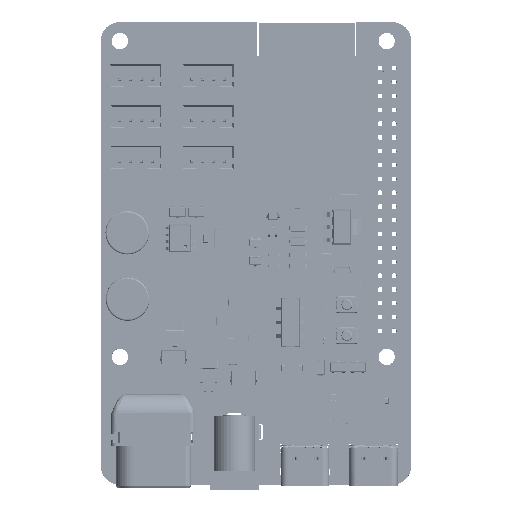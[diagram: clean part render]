
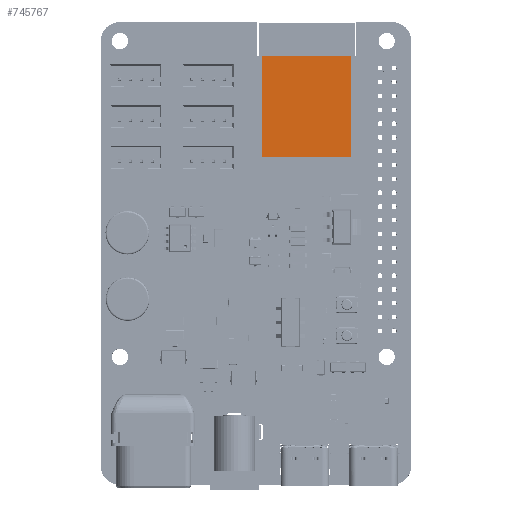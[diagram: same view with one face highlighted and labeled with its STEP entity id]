
A CAD part, top view. The second image highlights one B-rep face of the part: STEP entity #745767.
In plain terms, the highlighted planar face has unit normal (0, 0, 1).
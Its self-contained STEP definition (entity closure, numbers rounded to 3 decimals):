
#745453 = VERTEX_POINT('',#745454);
#745454 = CARTESIAN_POINT('',(8.15,-9.3,2.3));
#745461 = PLANE('',#745462);
#745462 = AXIS2_PLACEMENT_3D('',#745463,#745464,#745465);
#745463 = CARTESIAN_POINT('',(8.15,-9.3,0.));
#745464 = DIRECTION('',(0.,-1.,0.));
#745465 = DIRECTION('',(-1.,0.,0.));
#745473 = PLANE('',#745474);
#745474 = AXIS2_PLACEMENT_3D('',#745475,#745476,#745477);
#745475 = CARTESIAN_POINT('',(8.15,9.3,0.));
#745476 = DIRECTION('',(1.,0.,0.));
#745477 = DIRECTION('',(0.,-1.,0.));
#745485 = EDGE_CURVE('',#745453,#745486,#745488,.T.);
#745486 = VERTEX_POINT('',#745487);
#745487 = CARTESIAN_POINT('',(-8.15,-9.3,2.3));
#745488 = SURFACE_CURVE('',#745489,(#745493,#745500),.PCURVE_S1.);
#745489 = LINE('',#745490,#745491);
#745490 = CARTESIAN_POINT('',(8.15,-9.3,2.3));
#745491 = VECTOR('',#745492,1.);
#745492 = DIRECTION('',(-1.,0.,0.));
#745493 = PCURVE('',#745461,#745494);
#745494 = DEFINITIONAL_REPRESENTATION('',(#745495),#745499);
#745495 = LINE('',#745496,#745497);
#745496 = CARTESIAN_POINT('',(0.,-2.3));
#745497 = VECTOR('',#745498,1.);
#745498 = DIRECTION('',(1.,0.));
#745499 = ( GEOMETRIC_REPRESENTATION_CONTEXT(2) 
PARAMETRIC_REPRESENTATION_CONTEXT() REPRESENTATION_CONTEXT('2D SPACE',''
  ) );
#745500 = PCURVE('',#745501,#745506);
#745501 = PLANE('',#745502);
#745502 = AXIS2_PLACEMENT_3D('',#745503,#745504,#745505);
#745503 = CARTESIAN_POINT('',(8.15,-9.3,2.3));
#745504 = DIRECTION('',(0.,0.,1.));
#745505 = DIRECTION('',(1.,0.,0.));
#745506 = DEFINITIONAL_REPRESENTATION('',(#745507),#745511);
#745507 = LINE('',#745508,#745509);
#745508 = CARTESIAN_POINT('',(0.,0.));
#745509 = VECTOR('',#745510,1.);
#745510 = DIRECTION('',(-1.,0.));
#745511 = ( GEOMETRIC_REPRESENTATION_CONTEXT(2) 
PARAMETRIC_REPRESENTATION_CONTEXT() REPRESENTATION_CONTEXT('2D SPACE',''
  ) );
#745529 = PLANE('',#745530);
#745530 = AXIS2_PLACEMENT_3D('',#745531,#745532,#745533);
#745531 = CARTESIAN_POINT('',(-8.15,-9.3,0.));
#745532 = DIRECTION('',(-1.,0.,0.));
#745533 = DIRECTION('',(0.,1.,0.));
#745571 = EDGE_CURVE('',#745486,#745572,#745574,.T.);
#745572 = VERTEX_POINT('',#745573);
#745573 = CARTESIAN_POINT('',(-8.15,9.3,2.3));
#745574 = SURFACE_CURVE('',#745575,(#745579,#745586),.PCURVE_S1.);
#745575 = LINE('',#745576,#745577);
#745576 = CARTESIAN_POINT('',(-8.15,-9.3,2.3));
#745577 = VECTOR('',#745578,1.);
#745578 = DIRECTION('',(0.,1.,0.));
#745579 = PCURVE('',#745529,#745580);
#745580 = DEFINITIONAL_REPRESENTATION('',(#745581),#745585);
#745581 = LINE('',#745582,#745583);
#745582 = CARTESIAN_POINT('',(0.,-2.3));
#745583 = VECTOR('',#745584,1.);
#745584 = DIRECTION('',(1.,0.));
#745585 = ( GEOMETRIC_REPRESENTATION_CONTEXT(2) 
PARAMETRIC_REPRESENTATION_CONTEXT() REPRESENTATION_CONTEXT('2D SPACE',''
  ) );
#745586 = PCURVE('',#745501,#745587);
#745587 = DEFINITIONAL_REPRESENTATION('',(#745588),#745592);
#745588 = LINE('',#745589,#745590);
#745589 = CARTESIAN_POINT('',(-16.3,0.));
#745590 = VECTOR('',#745591,1.);
#745591 = DIRECTION('',(0.,1.));
#745592 = ( GEOMETRIC_REPRESENTATION_CONTEXT(2) 
PARAMETRIC_REPRESENTATION_CONTEXT() REPRESENTATION_CONTEXT('2D SPACE',''
  ) );
#745610 = PLANE('',#745611);
#745611 = AXIS2_PLACEMENT_3D('',#745612,#745613,#745614);
#745612 = CARTESIAN_POINT('',(-8.15,9.3,0.));
#745613 = DIRECTION('',(0.,1.,0.));
#745614 = DIRECTION('',(1.,0.,0.));
#745647 = EDGE_CURVE('',#745572,#745648,#745650,.T.);
#745648 = VERTEX_POINT('',#745649);
#745649 = CARTESIAN_POINT('',(8.15,9.3,2.3));
#745650 = SURFACE_CURVE('',#745651,(#745655,#745662),.PCURVE_S1.);
#745651 = LINE('',#745652,#745653);
#745652 = CARTESIAN_POINT('',(-8.15,9.3,2.3));
#745653 = VECTOR('',#745654,1.);
#745654 = DIRECTION('',(1.,0.,0.));
#745655 = PCURVE('',#745610,#745656);
#745656 = DEFINITIONAL_REPRESENTATION('',(#745657),#745661);
#745657 = LINE('',#745658,#745659);
#745658 = CARTESIAN_POINT('',(0.,-2.3));
#745659 = VECTOR('',#745660,1.);
#745660 = DIRECTION('',(1.,0.));
#745661 = ( GEOMETRIC_REPRESENTATION_CONTEXT(2) 
PARAMETRIC_REPRESENTATION_CONTEXT() REPRESENTATION_CONTEXT('2D SPACE',''
  ) );
#745662 = PCURVE('',#745501,#745663);
#745663 = DEFINITIONAL_REPRESENTATION('',(#745664),#745668);
#745664 = LINE('',#745665,#745666);
#745665 = CARTESIAN_POINT('',(-16.3,18.6));
#745666 = VECTOR('',#745667,1.);
#745667 = DIRECTION('',(1.,0.));
#745668 = ( GEOMETRIC_REPRESENTATION_CONTEXT(2) 
PARAMETRIC_REPRESENTATION_CONTEXT() REPRESENTATION_CONTEXT('2D SPACE',''
  ) );
#745718 = EDGE_CURVE('',#745648,#745453,#745719,.T.);
#745719 = SURFACE_CURVE('',#745720,(#745724,#745731),.PCURVE_S1.);
#745720 = LINE('',#745721,#745722);
#745721 = CARTESIAN_POINT('',(8.15,9.3,2.3));
#745722 = VECTOR('',#745723,1.);
#745723 = DIRECTION('',(0.,-1.,0.));
#745724 = PCURVE('',#745473,#745725);
#745725 = DEFINITIONAL_REPRESENTATION('',(#745726),#745730);
#745726 = LINE('',#745727,#745728);
#745727 = CARTESIAN_POINT('',(0.,-2.3));
#745728 = VECTOR('',#745729,1.);
#745729 = DIRECTION('',(1.,0.));
#745730 = ( GEOMETRIC_REPRESENTATION_CONTEXT(2) 
PARAMETRIC_REPRESENTATION_CONTEXT() REPRESENTATION_CONTEXT('2D SPACE',''
  ) );
#745731 = PCURVE('',#745501,#745732);
#745732 = DEFINITIONAL_REPRESENTATION('',(#745733),#745737);
#745733 = LINE('',#745734,#745735);
#745734 = CARTESIAN_POINT('',(0.,18.6));
#745735 = VECTOR('',#745736,1.);
#745736 = DIRECTION('',(0.,-1.));
#745737 = ( GEOMETRIC_REPRESENTATION_CONTEXT(2) 
PARAMETRIC_REPRESENTATION_CONTEXT() REPRESENTATION_CONTEXT('2D SPACE',''
  ) );
#745767 = ADVANCED_FACE('',(#745768),#745501,.T.);
#745768 = FACE_BOUND('',#745769,.F.);
#745769 = EDGE_LOOP('',(#745770,#745771,#745772,#745773));
#745770 = ORIENTED_EDGE('',*,*,#745485,.T.);
#745771 = ORIENTED_EDGE('',*,*,#745571,.T.);
#745772 = ORIENTED_EDGE('',*,*,#745647,.T.);
#745773 = ORIENTED_EDGE('',*,*,#745718,.T.);
